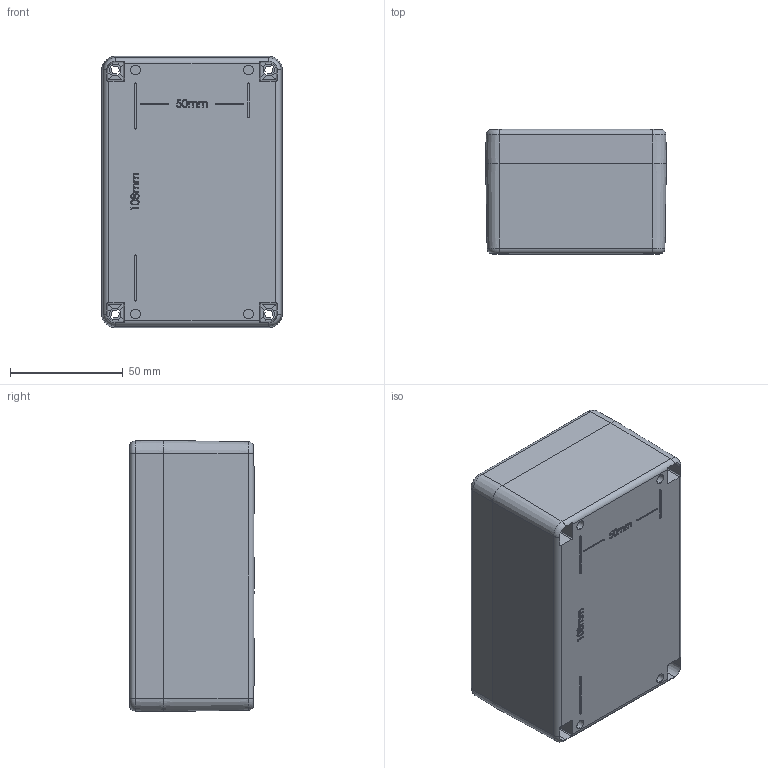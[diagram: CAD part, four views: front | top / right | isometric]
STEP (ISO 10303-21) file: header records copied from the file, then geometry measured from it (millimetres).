
FILE_DESCRIPTION (( 'STEP AP214' ), '1' );
FILE_NAME ('ZP 5 asm.STEP', '2014-10-27T11:31:53', ( '' ), ( '' ), 'SwSTEP 2.0', 'SolidWorks 2014', '' );
FILE_SCHEMA (( 'AUTOMOTIVE_DESIGN' ));
Length unit declared in the file: millimetre
Products named in the file (3): ZP 5 asm; ZP 5 Base; ZP 5 lid
Assembly tree (2 placements, depth 2):
  ZP 5 asm
    ZP 5 Base
    ZP 5 lid
Bounding box: 80 x 55.25 x 120 mm (x, y, z)
Volume: 116025.8 mm3; surface area: 95589.2 mm2
Topology: 2 solids, 2 shells, 793 faces, 2124 edges, 1370 vertices
Faces by surface type: plane 453, cone 176, bspline 79, cylinder 77, torus 8
Entity records: 29382 total; most frequent: CARTESIAN_POINT 9751, ORIENTED_EDGE 4208, DIRECTION 3820, EDGE_CURVE 2104, VECTOR 1382, LINE 1382, VERTEX_POINT 1370, AXIS2_PLACEMENT_3D 1219
